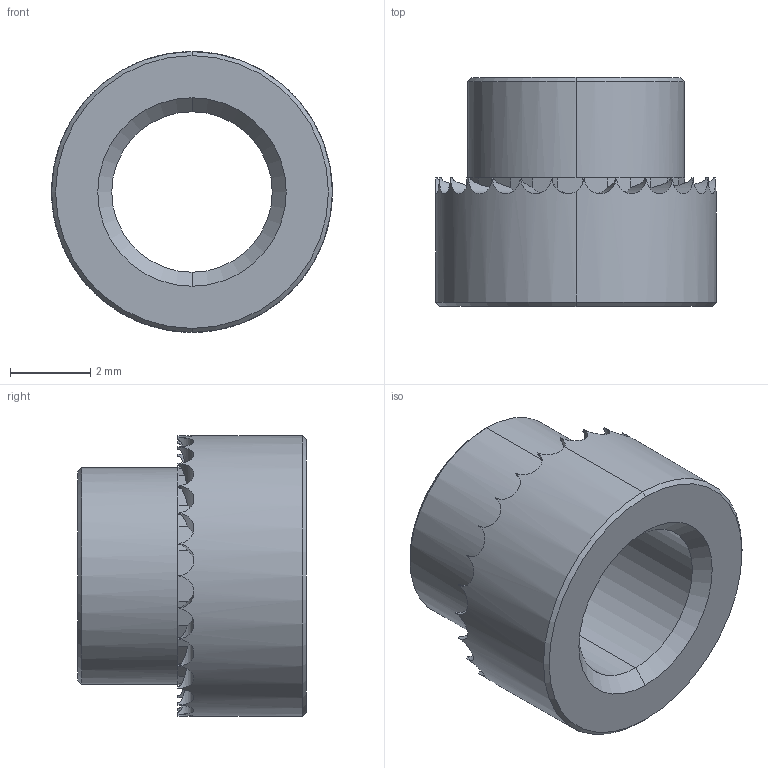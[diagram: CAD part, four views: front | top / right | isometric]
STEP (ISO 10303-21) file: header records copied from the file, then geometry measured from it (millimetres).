
FILE_DESCRIPTION (( 'STEP AP203' ), '1' );
FILE_NAME ('P0829.040-14G-ZP.step', '2019-03-21T22:15:30', ( '' ), ( '' ), 'SwSTEP 2.0', 'SolidWorks 2017', '' );
FILE_SCHEMA (( 'CONFIG_CONTROL_DESIGN' ));
Length unit declared in the file: millimetre
Products named in the file (1): P0829.040-14G-ZP
Bounding box: 7 x 5.7 x 7 mm (x, y, z)
Volume: 102 mm3; surface area: 232.9 mm2
Topology: 1 solids, 1 shells, 124 faces, 304 edges, 182 vertices
Faces by surface type: plane 83, cylinder 33, cone 8
Entity records: 3865 total; most frequent: CARTESIAN_POINT 943, ORIENTED_EDGE 608, DIRECTION 597, EDGE_CURVE 304, AXIS2_PLACEMENT_3D 224, VERTEX_POINT 182, LINE 149, VECTOR 149
